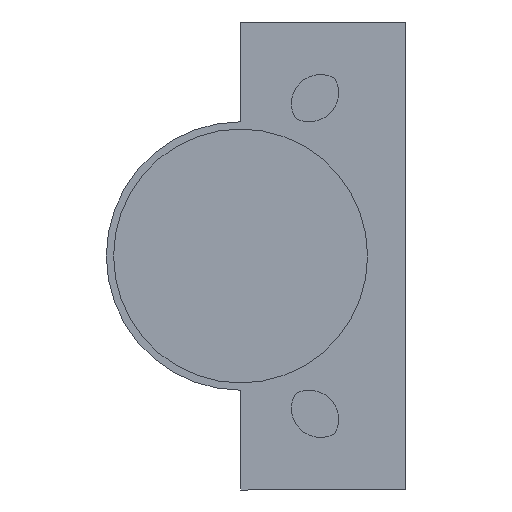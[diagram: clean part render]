
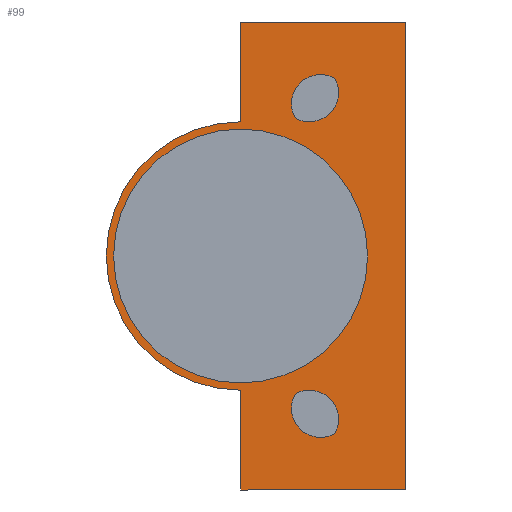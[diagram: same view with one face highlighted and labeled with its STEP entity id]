
A CAD part, front view. The second image highlights one B-rep face of the part: STEP entity #99.
In plain terms, the highlighted planar face has unit normal (0, -1, 0).
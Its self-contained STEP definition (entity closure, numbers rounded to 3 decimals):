
#7 = AXIS2_PLACEMENT_3D ( 'NONE', #38, #1483, #892 ) ;
#20 = EDGE_CURVE ( 'NONE', #1534, #280, #934, .T. ) ;
#22 = VERTEX_POINT ( 'NONE', #522 ) ;
#35 = CIRCLE ( 'NONE', #1063, 4. ) ;
#36 = AXIS2_PLACEMENT_3D ( 'NONE', #445, #1367, #664 ) ;
#38 = CARTESIAN_POINT ( 'NONE',  ( 16.5, -38.5, -21. ) ) ;
#42 = ORIENTED_EDGE ( 'NONE', *, *, #590, .F. ) ;
#76 = VERTEX_POINT ( 'NONE', #1131 ) ;
#80 = DIRECTION ( 'NONE',  ( 0., -1., 0. ) ) ;
#82 = CARTESIAN_POINT ( 'NONE',  ( 23., -38.5, 0. ) ) ;
#85 = VECTOR ( 'NONE', #787, 1000. ) ;
#99 = ADVANCED_FACE ( 'NONE', ( #1526, #1210, #309, #512 ), #1126, .F. ) ;
#104 = EDGE_CURVE ( 'NONE', #280, #1534, #392, .T. ) ;
#106 = DIRECTION ( 'NONE',  ( 0., -1., 0. ) ) ;
#118 = DIRECTION ( 'NONE',  ( 0., -1., 0. ) ) ;
#150 = VERTEX_POINT ( 'NONE', #1255 ) ;
#157 = CIRCLE ( 'NONE', #1156, 4. ) ;
#167 = CARTESIAN_POINT ( 'NONE',  ( 5.5, -38.5, -18.5 ) ) ;
#177 = CARTESIAN_POINT ( 'NONE',  ( 5.5, -38.5, 18.5 ) ) ;
#186 = ORIENTED_EDGE ( 'NONE', *, *, #104, .F. ) ;
#205 = VERTEX_POINT ( 'NONE', #683 ) ;
#223 = AXIS2_PLACEMENT_3D ( 'NONE', #268, #649, #1351 ) ;
#260 = CARTESIAN_POINT ( 'NONE',  ( 5.5, -38.5, 0. ) ) ;
#266 = DIRECTION ( 'NONE',  ( -1., 0., 0. ) ) ;
#268 = CARTESIAN_POINT ( 'NONE',  ( 5.5, -38.5, 0. ) ) ;
#271 = AXIS2_PLACEMENT_3D ( 'NONE', #1147, #80, #668 ) ;
#280 = VERTEX_POINT ( 'NONE', #82 ) ;
#288 = EDGE_CURVE ( 'NONE', #864, #438, #1101, .T. ) ;
#301 = AXIS2_PLACEMENT_3D ( 'NONE', #425, #1481, #1499 ) ;
#304 = DIRECTION ( 'NONE',  ( -1., 0., 0. ) ) ;
#309 = FACE_BOUND ( 'NONE', #1142, .T. ) ;
#324 = CARTESIAN_POINT ( 'NONE',  ( 15., -38.5, 22.5 ) ) ;
#337 = EDGE_CURVE ( 'NONE', #22, #637, #35, .T. ) ;
#339 = ORIENTED_EDGE ( 'NONE', *, *, #288, .F. ) ;
#340 = DIRECTION ( 'NONE',  ( 0., -1., 0. ) ) ;
#392 = CIRCLE ( 'NONE', #459, 17.5 ) ;
#399 = EDGE_LOOP ( 'NONE', ( #698, #1470, #810, #611, #603, #1512 ) ) ;
#403 = VECTOR ( 'NONE', #1416, 1000. ) ;
#425 = CARTESIAN_POINT ( 'NONE',  ( 5.5, -38.5, 0. ) ) ;
#435 = DIRECTION ( 'NONE',  ( 0., 0., 1. ) ) ;
#438 = VERTEX_POINT ( 'NONE', #497 ) ;
#445 = CARTESIAN_POINT ( 'NONE',  ( 16.5, -38.5, 21. ) ) ;
#456 = ORIENTED_EDGE ( 'NONE', *, *, #1197, .F. ) ;
#459 = AXIS2_PLACEMENT_3D ( 'NONE', #906, #1150, #304 ) ;
#471 = EDGE_CURVE ( 'NONE', #640, #794, #1135, .T. ) ;
#473 = DIRECTION ( 'NONE',  ( 1., 0., 0. ) ) ;
#490 = LINE ( 'NONE', #1360, #982 ) ;
#497 = CARTESIAN_POINT ( 'NONE',  ( 18.477, -38.5, 24.477 ) ) ;
#512 = FACE_BOUND ( 'NONE', #1177, .T. ) ;
#522 = CARTESIAN_POINT ( 'NONE',  ( 18.477, -38.5, -24.477 ) ) ;
#526 = CIRCLE ( 'NONE', #271, 4. ) ;
#578 = CARTESIAN_POINT ( 'NONE',  ( 5.5, -38.5, 18.5 ) ) ;
#590 = EDGE_CURVE ( 'NONE', #637, #150, #1239, .T. ) ;
#594 = CARTESIAN_POINT ( 'NONE',  ( 28.25, -38.5, -32.25 ) ) ;
#599 = VECTOR ( 'NONE', #435, 1000. ) ;
#603 = ORIENTED_EDGE ( 'NONE', *, *, #734, .F. ) ;
#611 = ORIENTED_EDGE ( 'NONE', *, *, #1318, .F. ) ;
#637 = VERTEX_POINT ( 'NONE', #1348 ) ;
#640 = VERTEX_POINT ( 'NONE', #167 ) ;
#649 = DIRECTION ( 'NONE',  ( 0., -1., 0. ) ) ;
#664 = DIRECTION ( 'NONE',  ( 1., 0., 0. ) ) ;
#668 = DIRECTION ( 'NONE',  ( 1., 0., 0. ) ) ;
#683 = CARTESIAN_POINT ( 'NONE',  ( 5.5, -38.5, 32.25 ) ) ;
#687 = CARTESIAN_POINT ( 'NONE',  ( 12.5, -38.5, 21. ) ) ;
#698 = ORIENTED_EDGE ( 'NONE', *, *, #1218, .F. ) ;
#701 = DIRECTION ( 'NONE',  ( 1., 0., 0. ) ) ;
#703 = DIRECTION ( 'NONE',  ( 1., 0., 0. ) ) ;
#712 = ORIENTED_EDGE ( 'NONE', *, *, #1169, .F. ) ;
#734 = EDGE_CURVE ( 'NONE', #794, #205, #1427, .T. ) ;
#782 = VECTOR ( 'NONE', #701, 1000. ) ;
#787 = DIRECTION ( 'NONE',  ( 0., 0., 1. ) ) ;
#792 = VERTEX_POINT ( 'NONE', #929 ) ;
#794 = VERTEX_POINT ( 'NONE', #578 ) ;
#810 = ORIENTED_EDGE ( 'NONE', *, *, #1117, .F. ) ;
#833 = EDGE_CURVE ( 'NONE', #150, #22, #157, .T. ) ;
#853 = AXIS2_PLACEMENT_3D ( 'NONE', #324, #340, #703 ) ;
#864 = VERTEX_POINT ( 'NONE', #1536 ) ;
#892 = DIRECTION ( 'NONE',  ( 1., 0., 0. ) ) ;
#906 = CARTESIAN_POINT ( 'NONE',  ( 5.5, -38.5, 0. ) ) ;
#929 = CARTESIAN_POINT ( 'NONE',  ( 5.5, -38.5, -32.25 ) ) ;
#934 = CIRCLE ( 'NONE', #223, 17.5 ) ;
#953 = CARTESIAN_POINT ( 'NONE',  ( 15., -38.5, -22.5 ) ) ;
#979 = DIRECTION ( 'NONE',  ( 0., 1., 0. ) ) ;
#982 = VECTOR ( 'NONE', #1458, 1000. ) ;
#1021 = AXIS2_PLACEMENT_3D ( 'NONE', #260, #979, #266 ) ;
#1063 = AXIS2_PLACEMENT_3D ( 'NONE', #953, #118, #473 ) ;
#1101 = CIRCLE ( 'NONE', #853, 4. ) ;
#1103 = VERTEX_POINT ( 'NONE', #1124 ) ;
#1111 = CARTESIAN_POINT ( 'NONE',  ( -12., -38.5, 0. ) ) ;
#1112 = LINE ( 'NONE', #1392, #782 ) ;
#1117 = EDGE_CURVE ( 'NONE', #76, #1103, #490, .T. ) ;
#1124 = CARTESIAN_POINT ( 'NONE',  ( 28.25, -38.5, -32.25 ) ) ;
#1126 = PLANE ( 'NONE',  #301 ) ;
#1131 = CARTESIAN_POINT ( 'NONE',  ( 28.25, -38.5, 32.25 ) ) ;
#1135 = CIRCLE ( 'NONE', #1021, 18.5 ) ;
#1142 = EDGE_LOOP ( 'NONE', ( #1379, #186 ) ) ;
#1147 = CARTESIAN_POINT ( 'NONE',  ( 16.5, -38.5, 21. ) ) ;
#1150 = DIRECTION ( 'NONE',  ( 0., -1., 0. ) ) ;
#1156 = AXIS2_PLACEMENT_3D ( 'NONE', #1202, #106, #1304 ) ;
#1169 = EDGE_CURVE ( 'NONE', #1358, #864, #1206, .T. ) ;
#1177 = EDGE_LOOP ( 'NONE', ( #1193, #1241, #42 ) ) ;
#1193 = ORIENTED_EDGE ( 'NONE', *, *, #337, .F. ) ;
#1197 = EDGE_CURVE ( 'NONE', #438, #1358, #526, .T. ) ;
#1199 = EDGE_LOOP ( 'NONE', ( #339, #712, #456 ) ) ;
#1202 = CARTESIAN_POINT ( 'NONE',  ( 16.5, -38.5, -21. ) ) ;
#1206 = CIRCLE ( 'NONE', #36, 4. ) ;
#1210 = FACE_BOUND ( 'NONE', #1199, .T. ) ;
#1218 = EDGE_CURVE ( 'NONE', #792, #640, #1349, .T. ) ;
#1239 = CIRCLE ( 'NONE', #7, 4. ) ;
#1241 = ORIENTED_EDGE ( 'NONE', *, *, #833, .F. ) ;
#1255 = CARTESIAN_POINT ( 'NONE',  ( 12.5, -38.5, -21. ) ) ;
#1304 = DIRECTION ( 'NONE',  ( 1., 0., 0. ) ) ;
#1318 = EDGE_CURVE ( 'NONE', #205, #76, #1112, .T. ) ;
#1348 = CARTESIAN_POINT ( 'NONE',  ( 13.023, -38.5, -19.023 ) ) ;
#1349 = LINE ( 'NONE', #1490, #599 ) ;
#1351 = DIRECTION ( 'NONE',  ( -1., 0., 0. ) ) ;
#1358 = VERTEX_POINT ( 'NONE', #687 ) ;
#1360 = CARTESIAN_POINT ( 'NONE',  ( 28.25, -38.5, 32.25 ) ) ;
#1367 = DIRECTION ( 'NONE',  ( 0., -1., 0. ) ) ;
#1379 = ORIENTED_EDGE ( 'NONE', *, *, #20, .F. ) ;
#1392 = CARTESIAN_POINT ( 'NONE',  ( 28.25, -38.5, 32.25 ) ) ;
#1400 = EDGE_CURVE ( 'NONE', #792, #1103, #1500, .T. ) ;
#1416 = DIRECTION ( 'NONE',  ( 1., 0., 0. ) ) ;
#1427 = LINE ( 'NONE', #177, #85 ) ;
#1458 = DIRECTION ( 'NONE',  ( 0., 0., -1. ) ) ;
#1470 = ORIENTED_EDGE ( 'NONE', *, *, #1400, .T. ) ;
#1481 = DIRECTION ( 'NONE',  ( 0., 1., 0. ) ) ;
#1483 = DIRECTION ( 'NONE',  ( 0., -1., 0. ) ) ;
#1490 = CARTESIAN_POINT ( 'NONE',  ( 5.5, -38.5, -31. ) ) ;
#1499 = DIRECTION ( 'NONE',  ( -1., 0., 0. ) ) ;
#1500 = LINE ( 'NONE', #594, #403 ) ;
#1512 = ORIENTED_EDGE ( 'NONE', *, *, #471, .F. ) ;
#1526 = FACE_OUTER_BOUND ( 'NONE', #399, .T. ) ;
#1534 = VERTEX_POINT ( 'NONE', #1111 ) ;
#1536 = CARTESIAN_POINT ( 'NONE',  ( 13.023, -38.5, 19.023 ) ) ;
